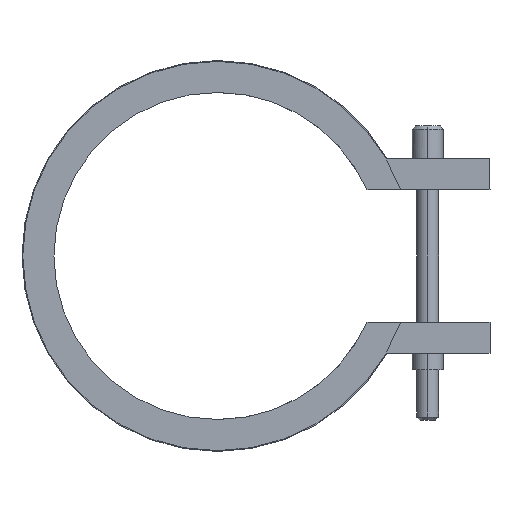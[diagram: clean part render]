
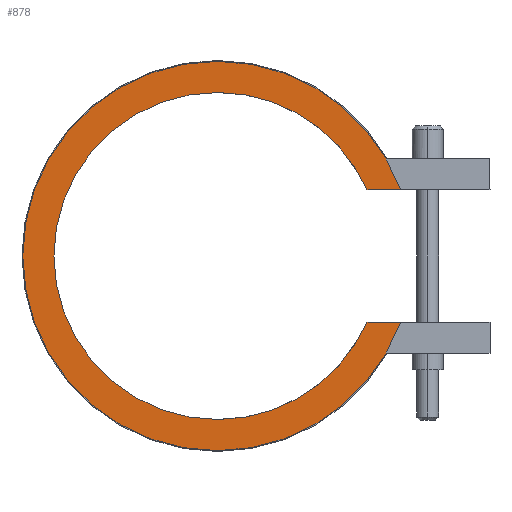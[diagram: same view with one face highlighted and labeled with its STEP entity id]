
A CAD part, left-side view. The second image highlights one B-rep face of the part: STEP entity #878.
In plain terms, the highlighted planar face has unit normal (-1, 0, 0).
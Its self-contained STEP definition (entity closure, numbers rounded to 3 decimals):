
#416=CARTESIAN_POINT('Vertex',(-12.5,-19.203,-8.5)) ;
#419=CARTESIAN_POINT('Line Origine',(-12.5,-21.357,-8.5)) ;
#423=CARTESIAN_POINT('Vertex',(-12.5,-23.511,-8.5)) ;
#469=CARTESIAN_POINT('Vertex',(-12.5,0.,-25.)) ;
#472=CARTESIAN_POINT('Axis2P3D Location',(-12.5,0.,0.)) ;
#493=CARTESIAN_POINT('Vertex',(-12.5,0.,25.)) ;
#496=CARTESIAN_POINT('Axis2P3D Location',(-12.5,0.,0.)) ;
#508=CARTESIAN_POINT('Axis2P3D Location',(-12.5,0.,0.)) ;
#512=CARTESIAN_POINT('Vertex',(-12.5,-23.511,8.5)) ;
#532=CARTESIAN_POINT('Line Origine',(-12.5,-21.357,8.5)) ;
#536=CARTESIAN_POINT('Vertex',(-12.5,-19.203,8.5)) ;
#824=CARTESIAN_POINT('Axis2P3D Location',(-12.5,0.,0.)) ;
#828=CARTESIAN_POINT('Vertex',(-12.5,0.,-21.)) ;
#851=CARTESIAN_POINT('Axis2P3D Location',(-12.5,0.,0.)) ;
#856=CARTESIAN_POINT('Axis2P3D Location',(-12.5,0.,0.)) ;
#860=CARTESIAN_POINT('Vertex',(-12.5,0.,21.)) ;
#863=CARTESIAN_POINT('Axis2P3D Location',(-12.5,0.,0.)) ;
#420=DIRECTION('Vector Direction',(0.,1.,0.)) ;
#473=DIRECTION('Axis2P3D Direction',(1.,0.,-0.)) ;
#497=DIRECTION('Axis2P3D Direction',(1.,0.,-0.)) ;
#509=DIRECTION('Axis2P3D Direction',(1.,0.,-0.)) ;
#533=DIRECTION('Vector Direction',(0.,-1.,0.)) ;
#825=DIRECTION('Axis2P3D Direction',(1.,0.,-0.)) ;
#852=DIRECTION('Axis2P3D Direction',(1.,0.,0.)) ;
#853=DIRECTION('Axis2P3D XDirection',(0.,0.,-1.)) ;
#857=DIRECTION('Axis2P3D Direction',(1.,0.,0.)) ;
#864=DIRECTION('Axis2P3D Direction',(1.,0.,0.)) ;
#474=AXIS2_PLACEMENT_3D('Circle Axis2P3D',#472,#473,$) ;
#498=AXIS2_PLACEMENT_3D('Circle Axis2P3D',#496,#497,$) ;
#510=AXIS2_PLACEMENT_3D('Circle Axis2P3D',#508,#509,$) ;
#826=AXIS2_PLACEMENT_3D('Circle Axis2P3D',#824,#825,$) ;
#854=AXIS2_PLACEMENT_3D('Plane Axis2P3D',#851,#852,#853) ;
#858=AXIS2_PLACEMENT_3D('Circle Axis2P3D',#856,#857,$) ;
#865=AXIS2_PLACEMENT_3D('Circle Axis2P3D',#863,#864,$) ;
#869=ORIENTED_EDGE('',*,*,#425,.T.) ;
#870=ORIENTED_EDGE('',*,*,#830,.T.) ;
#871=ORIENTED_EDGE('',*,*,#862,.T.) ;
#872=ORIENTED_EDGE('',*,*,#867,.T.) ;
#873=ORIENTED_EDGE('',*,*,#538,.T.) ;
#874=ORIENTED_EDGE('',*,*,#514,.F.) ;
#875=ORIENTED_EDGE('',*,*,#500,.F.) ;
#876=ORIENTED_EDGE('',*,*,#476,.F.) ;
#421=VECTOR('Line Direction',#420,1.) ;
#534=VECTOR('Line Direction',#533,1.) ;
#878=ADVANCED_FACE('14042025',(#877),#855,.F.) ;
#475=CIRCLE('generated circle',#474,25.) ;
#499=CIRCLE('generated circle',#498,25.) ;
#511=CIRCLE('generated circle',#510,25.) ;
#827=CIRCLE('generated circle',#826,21.) ;
#859=CIRCLE('generated circle',#858,21.) ;
#866=CIRCLE('generated circle',#865,21.) ;
#425=EDGE_CURVE('',#424,#417,#422,.T.) ;
#476=EDGE_CURVE('',#424,#470,#475,.T.) ;
#500=EDGE_CURVE('',#470,#494,#499,.T.) ;
#514=EDGE_CURVE('',#494,#513,#511,.T.) ;
#538=EDGE_CURVE('',#537,#513,#535,.T.) ;
#830=EDGE_CURVE('',#417,#829,#827,.T.) ;
#862=EDGE_CURVE('',#829,#861,#859,.T.) ;
#867=EDGE_CURVE('',#861,#537,#866,.T.) ;
#868=EDGE_LOOP('',(#869,#870,#871,#872,#873,#874,#875,#876)) ;
#877=FACE_OUTER_BOUND('',#868,.T.) ;
#422=LINE('Line',#419,#421) ;
#535=LINE('Line',#532,#534) ;
#855=PLANE('Plane',#854) ;
#417=VERTEX_POINT('',#416) ;
#424=VERTEX_POINT('',#423) ;
#470=VERTEX_POINT('',#469) ;
#494=VERTEX_POINT('',#493) ;
#513=VERTEX_POINT('',#512) ;
#537=VERTEX_POINT('',#536) ;
#829=VERTEX_POINT('',#828) ;
#861=VERTEX_POINT('',#860) ;
